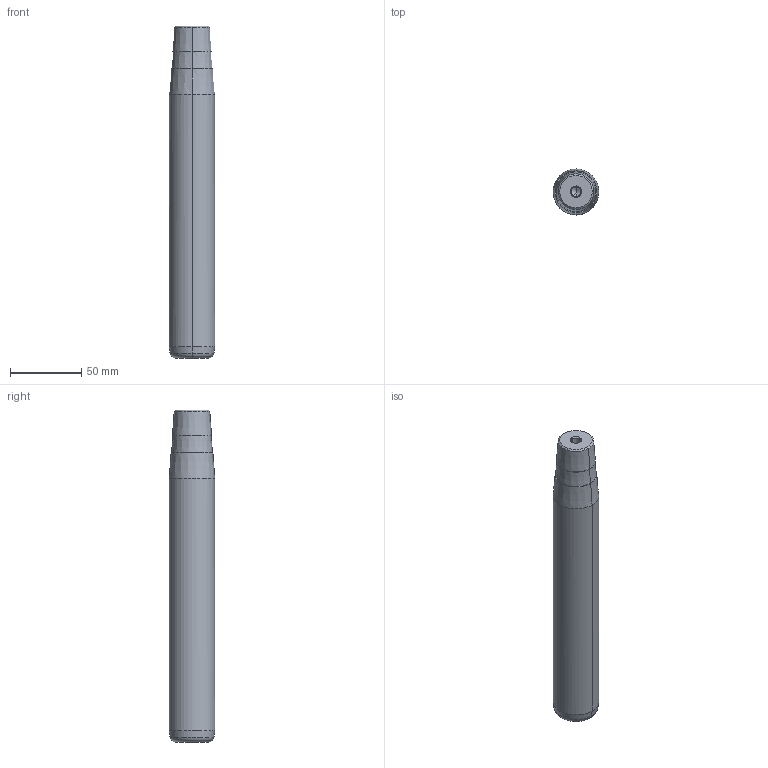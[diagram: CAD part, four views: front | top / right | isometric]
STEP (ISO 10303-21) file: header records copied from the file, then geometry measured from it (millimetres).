
FILE_DESCRIPTION(('CATIA V5 STEP Exchange'),'2;1');
FILE_NAME('C:\Users\Utente\Desktop\IO LAVORO\3D X SITO CF\X SITO\722\722-32x200x233.stp','2021-01-08T16:09:55+00:00',('none'),('none'),'CATIA Version 5 Release 20 GA (IN-10)','CATIA V5 STEP AP203','none');
FILE_SCHEMA(('CONFIG_CONTROL_DESIGN'));
Length unit declared in the file: millimetre
Products named in the file (1): 722-32x200x233
Bounding box: 32 x 32 x 233 mm (x, y, z)
Volume: 176478.7 mm3; surface area: 24998.4 mm2
Topology: 1 solids, 1 shells, 32 faces, 98 edges, 66 vertices
Faces by surface type: cone 22, cylinder 6, plane 2, torus 2
Entity records: 1166 total; most frequent: CARTESIAN_POINT 279, ORIENTED_EDGE 188, DIRECTION 148, EDGE_CURVE 94, AXIS2_PLACEMENT_3D 89, VERTEX_POINT 66, CIRCLE 56, EDGE_LOOP 34
